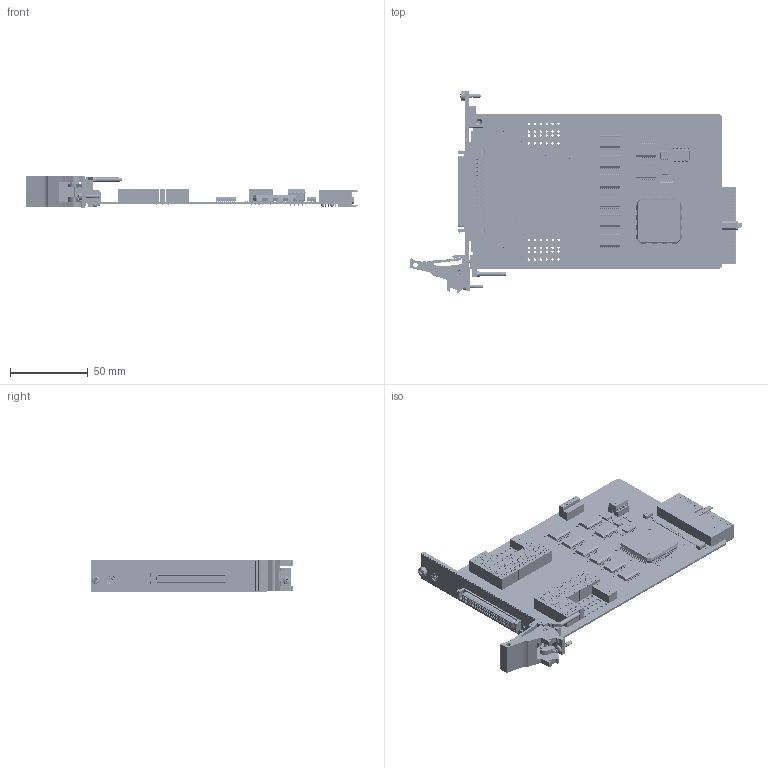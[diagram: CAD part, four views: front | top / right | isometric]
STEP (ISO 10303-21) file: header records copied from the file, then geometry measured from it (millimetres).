
FILE_DESCRIPTION (( 'STEP AP214' ), '1' );
FILE_NAME ('40-630-022-64-1 BASIC ASSY-S20.STEP', '2016-10-20T16:31:55', ( 'admin' ), ( 'Hewlett-Packard Company' ), 'SwSTEP 2.0', 'SolidWorks 2016', '' );
FILE_SCHEMA (( 'AUTOMOTIVE_DESIGN' ));
Length unit declared in the file: millimetre
Products named in the file (150): C-CP-034; C-PC-196 PXI MULTIPLEXER CONFIG; C-RS-102 RES 4x10R 1206 1-16W 5% 200PPM; C-RL-226 Micro SIL Relay 109-2-A-5-1D; C-RS-085 Res 150R 0805; C-IC-102 IC 74ACT273 SMD; C-FX-042 Screw M2.5x6 CSK Pozi_M 2.5x06 - C-FX-042; C-FX-025 Pcb Mounting Bracket; C-FX-101 M2.5x6mm Pan Head Cross Recess Screw_ISO; C-IC-102 IC 74ACT273 SMD_Without Pckage Description; C-FX-165 CPCI Ejector Handle; C-RS-079 Res N-W 4x10K 1206 CRA3A4E10K; L-FX-165 PXI Handle Label; C-IC-087 IC 74HCT32D Logic IC Smt_No Text; C-FX-165 Handle Pin; C-FX-042 Screw M2.5x6 CSK Pozi; C-FX-165 Handle Finger; C-IC-100 IC 74HCT273 SMD_Without Pckage Description; C-FX-165 Handle Body; C-RL-096 109P-1-A-5-471D; C-IC-101 IC 74HCT244 SMD; C-IC-087 IC 74HCT32D Logic IC Smt; Z-FX-2001 FP Fixing - Bush + Screw; P-FX-017 M2,5 Collar Posi-Slot Screw; C-IC-090 IC M 93C56_No Text; C-IC-100 IC 74HCT273 SMD; C-CP-160 Cap 10uF 16V Tant Smt (C.CASE); C-IC-056 IC TL7705ACD SMT_No Text; C-BK-026 Bush Front Panel Mounting; C-FX-524 Screw 2-56UNC 3-16`` PanHD Pozi_ISO 7045 - M2.5 x 6 - Z --- 6N; C-IC-090 IC M 93C56; A-FP-148 Front Panel C-FP-148 Assembly; C-CN-363 Connector female SCSI 68-pin; C-IC-056 IC TL7705ACD SMT; L-FP-148 Label Assy; C-CN-035 SOCKET IC 8 WAY DIL low profil; C-FX-524 Screw 2-56UNC 3-16`` PanHD Pozi; L-FP-148-# Label for C-FP-148; C-IC-099 DIP8 Package; C-FP-148 PXI 1-Slot SCSI 68 Way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
Assembly tree (118 placements, depth 5):
  C-CP-034
  C-RS-102 RES 4x10R 1206 1-16W 5% 200PPM
  C-RL-226 Micro SIL Relay 109-2-A-5-1D
  C-IC-102 IC 74ACT273 SMD
  C-RL-226 Micro SIL Relay 109-2-A-5-1D
Bounding box: 213.51 x 129.67 x 20 mm (x, y, z)
Volume: 70222.9 mm3; surface area: 97991.8 mm2
Topology: 184 solids, 211 shells, 26500 faces, 69575 edges, 45312 vertices
Faces by surface type: plane 19281, bspline 3662, cylinder 3224, cone 239, torus 71, sphere 23
Entity records: 405609 total; most frequent: CARTESIAN_POINT 70913, ORIENTED_EDGE 54046, DIRECTION 51418, EDGE_CURVE 27025, LINE 21624, VECTOR 21624, VERTEX_POINT 17512, AXIS2_PLACEMENT_3D 14897
